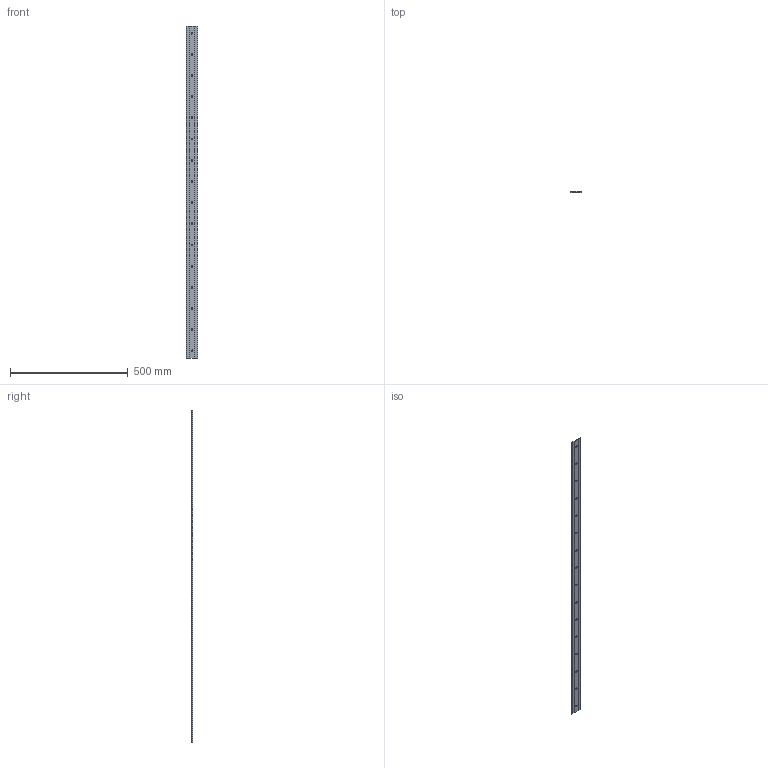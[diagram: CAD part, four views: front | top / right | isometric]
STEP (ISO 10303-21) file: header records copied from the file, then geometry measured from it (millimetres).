
FILE_DESCRIPTION(('STEP AP203'),'1');
FILE_NAME('//192.168.1.1/share/s-4 技術開発/s-4-4_CAD/s-4-4-6_見直し、確認済み/014 修正済み(済)/GF_TOP/GF-50C-1410.step','2022-03-14T00:21:01',(' '),(' '),'Spatial InterOp 3D',' ',' ');
FILE_SCHEMA(('CONFIG_CONTROL_DESIGN'));
Length unit declared in the file: millimetre
Products named in the file (1): 1
Bounding box: 50.79 x 4.93 x 1410 mm (x, y, z)
Volume: 328950.5 mm3; surface area: 152041 mm2
Topology: 1 solids, 1 shells, 66 faces, 176 edges, 112 vertices
Faces by surface type: cone 32, cylinder 20, plane 14
Full cylindrical faces by diameter (mm): 7 x16
Entity records: 1788 total; most frequent: DIRECTION 318, CARTESIAN_POINT 275, ORIENTED_EDGE 224, EDGE_LOOP 146, AXIS2_PLACEMENT_3D 139, EDGE_CURVE 112, VERTEX_POINT 96, FACE_OUTER_BOUND 82
